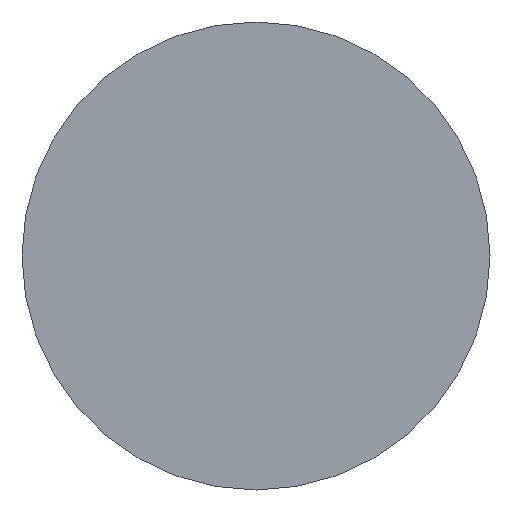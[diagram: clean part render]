
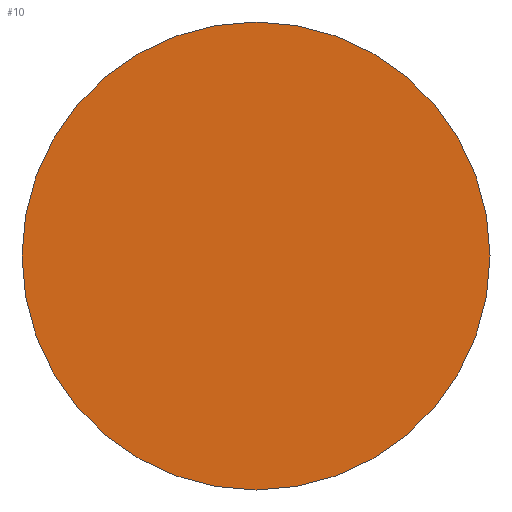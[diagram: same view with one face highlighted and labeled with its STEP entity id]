
A CAD part, left-side view. The second image highlights one B-rep face of the part: STEP entity #10.
In plain terms, the highlighted planar face has unit normal (-1, 0, 0).
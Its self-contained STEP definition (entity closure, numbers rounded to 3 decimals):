
#10 = ADVANCED_FACE ( 'NONE', ( #207 ), #87, .T. ) ;
#38 = DIRECTION ( 'NONE',  ( 1., 0., 0. ) ) ;
#64 = AXIS2_PLACEMENT_3D ( 'NONE', #238, #84, #215 ) ;
#69 = AXIS2_PLACEMENT_3D ( 'NONE', #187, #38, #162 ) ;
#84 = DIRECTION ( 'NONE',  ( 1., 0., 0. ) ) ;
#87 = PLANE ( 'NONE',  #211 ) ;
#104 = CARTESIAN_POINT ( 'NONE',  ( 0., 1.25, 0. ) ) ;
#115 = EDGE_CURVE ( 'NONE', #214, #140, #196, .T. ) ;
#119 = CIRCLE ( 'NONE', #69, 1.25 ) ;
#126 = CARTESIAN_POINT ( 'NONE',  ( 0., -1.25, 0. ) ) ;
#140 = VERTEX_POINT ( 'NONE', #104 ) ;
#152 = DIRECTION ( 'NONE',  ( 0., -1., 0. ) ) ;
#162 = DIRECTION ( 'NONE',  ( 0., 1., 0. ) ) ;
#168 = EDGE_CURVE ( 'NONE', #140, #214, #119, .T. ) ;
#187 = CARTESIAN_POINT ( 'NONE',  ( 0., 0., 0. ) ) ;
#193 = CARTESIAN_POINT ( 'NONE',  ( 0., 0., 0. ) ) ;
#196 = CIRCLE ( 'NONE', #64, 1.25 ) ;
#207 = FACE_OUTER_BOUND ( 'NONE', #266, .T. ) ;
#211 = AXIS2_PLACEMENT_3D ( 'NONE', #193, #234, #152 ) ;
#214 = VERTEX_POINT ( 'NONE', #126 ) ;
#215 = DIRECTION ( 'NONE',  ( 0., 1., 0. ) ) ;
#222 = ORIENTED_EDGE ( 'NONE', *, *, #115, .F. ) ;
#225 = ORIENTED_EDGE ( 'NONE', *, *, #168, .F. ) ;
#234 = DIRECTION ( 'NONE',  ( -1., 0., 0. ) ) ;
#238 = CARTESIAN_POINT ( 'NONE',  ( 0., 0., 0. ) ) ;
#266 = EDGE_LOOP ( 'NONE', ( #225, #222 ) ) ;
